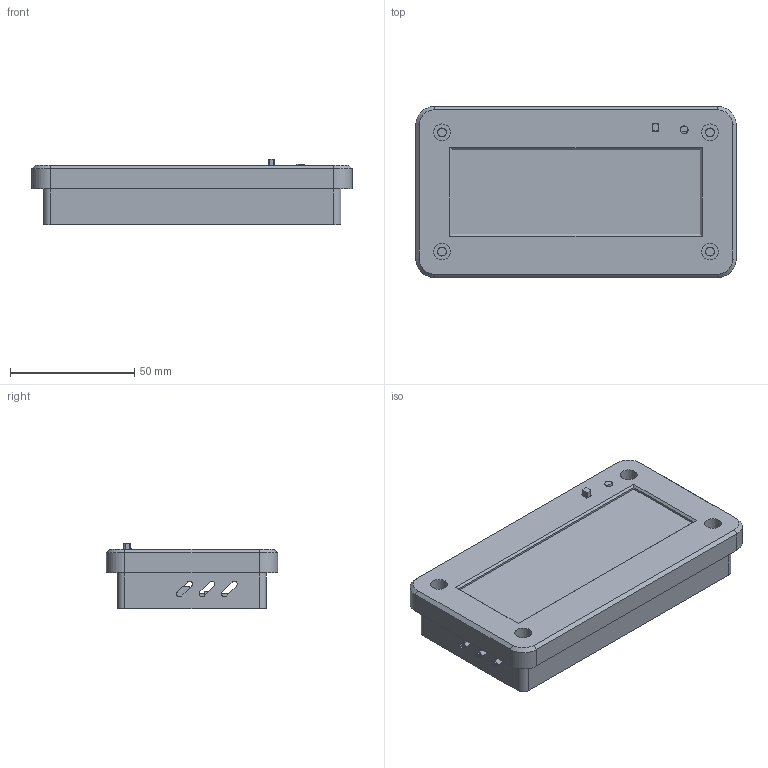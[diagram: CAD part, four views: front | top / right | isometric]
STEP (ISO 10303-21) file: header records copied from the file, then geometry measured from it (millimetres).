
FILE_DESCRIPTION(/* description */ (''),/* implementation_level */ '2;1');
FILE_NAME(/* name */ 'little-on-air-v214-assembly.step',/* time_stamp */ '2026-09-18T16:24:41-07:00',/* author */ (''),/* organization */ (''),/* preprocessor_version */ 'ST-DEVELOPER v20.2',/* originating_system */ 'Autodesk Translation Framework v15.15.0.0',/* authorisation */ '');
FILE_SCHEMA (('AUTOMOTIVE_DESIGN { 1 0 10303 214 3 1 1 }'));
Length unit declared in the file: centimetre
Products named in the file (12): (Unsaved); 01 Front optical bezel; 02 Clear acrylic; 03 Registered graphic backing; 04 Optical retainer; 05 Rear electronics housing; 06 Electronics retaining yoke; 07 Front guided reset button; 09 Upper charger light guide; 10 Lower charger light guide; 08 Front RGB light guide; 11 Rear light guide keeper
Assembly tree (11 placements, depth 2):
  (Unsaved)
    01 Front optical bezel
    02 Clear acrylic
    03 Registered graphic backing
    04 Optical retainer
    05 Rear electronics housing
    06 Electronics retaining yoke
    07 Front guided reset button
    09 Upper charger light guide
    10 Lower charger light guide
    08 Front RGB light guide
    11 Rear light guide keeper
Bounding box: 129 x 69 x 26.5 mm (x, y, z)
Volume: 77415.1 mm3; surface area: 80653.1 mm2
Topology: 11 solids, 11 shells, 1516 faces, 4339 edges, 2885 vertices
Faces by surface type: plane 1419, cylinder 93, cone 4
Full cylindrical faces by diameter (mm): 3.2 x3, 3.6 x27, 6 x1, 6.8 x4
Entity records: 49206 total; most frequent: CARTESIAN_POINT 8763, ORIENTED_EDGE 8678, DIRECTION 7623, EDGE_CURVE 4339, LINE 4133, VECTOR 4133, VERTEX_POINT 2885, AXIS2_PLACEMENT_3D 1745
